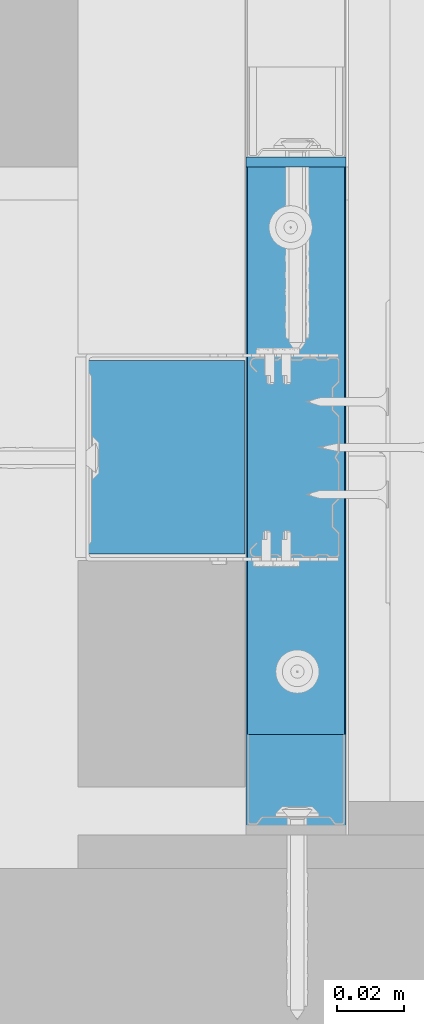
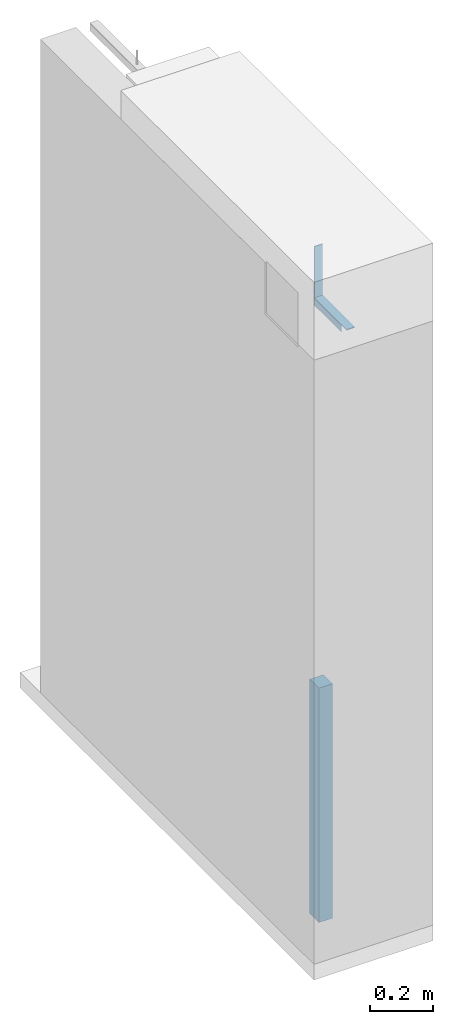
# One storey, part 6 of 62: 4 walls.
"""IFC2X3 building model written with IfcOpenShell, lengths in millimetres."""

from ifc_helpers import new_model, si_unit, frame, origin_with_axes, place, context, subcontext, project, spatial, faceted_brep, material, type_object, element, save


model = new_model("IFC2X3")

# Units and contexts
model_context = context("Model", 3, world=origin_with_axes())
body_context = subcontext(model_context, "Body", "Model", "MODEL_VIEW")
ifc_project = project(units=[si_unit("LENGTHUNIT", "METRE", prefix="MILLI"), si_unit("AREAUNIT", "SQUARE_METRE"), si_unit("VOLUMEUNIT", "CUBIC_METRE")], contexts=[model_context])

# Site, building, storey
site_placement = place(None, frame((2152.14102611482, -2015.0250894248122, 57.61556563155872), z_axis=(0.0, 0.0, 1.0), x_axis=(-1.1102230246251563e-16, 1.0, 0.0)))
site = spatial("IfcSite", under=ifc_project, at=site_placement, Name="Default Site", CompositionType="ELEMENT")
building_placement = place(site_placement, origin_with_axes())
building = spatial("IfcBuilding", under=site, at=building_placement, Name="Default Building", CompositionType="ELEMENT")
storey_placement = place(building_placement, origin_with_axes())
storey = spatial("IfcBuildingStorey", under=building, at=storey_placement, Name="Default Building Storey", CompositionType="ELEMENT", Elevation=57.61556563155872)

# Walls
ifc_material_1 = material(Name="Default")
wall_type_1 = type_object("IfcWallType", Name="Wypełnienie z wełny mineralnej szklanej ISOVER#17", PredefinedType="NOTDEFINED")
wall_1_placement = place(storey_placement, frame((2041.0623067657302, 5350.424146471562, -7.900000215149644), z_axis=(0.0, 0.0, 1.0), x_axis=(-1.0, 4.718447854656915e-16, 0.0)))
element("IfcWall", 1, at=wall_1_placement, inside=storey, type_object=wall_type_1, material=ifc_material_1, Name="Wypełnienie z wełny mineralnej szklanej ISOVER", context=body_context, shape_type="Brep", body=[
    faceted_brep([(-168.124780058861, 3328.2832634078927, 7.899999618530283), (-168.124780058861, 3328.2832634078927, 911.5436077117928), (-225.97478152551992, 3328.2832634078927, 911.5436077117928), (-225.97478152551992, 3328.2832634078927, 7.899999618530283), (-168.124780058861, 3378.283168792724, 7.899999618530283), (-168.124780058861, 3378.283168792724, 911.5436077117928), (-225.97478152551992, 3378.283168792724, 911.5436077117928), (-225.97478152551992, 3378.283168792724, 7.899999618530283)], [[[0, 1, 2, 3]], [[0, 4, 5, 1]], [[6, 5, 4, 7]], [[7, 4, 0, 3]]]),
    faceted_brep([(-225.97478152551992, 3328.2832634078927, 911.5436077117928), (-225.97478152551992, 3378.283168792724, 911.5436077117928), (-225.97478152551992, 3378.283168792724, 7.899999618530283), (-225.97478152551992, 3328.2832634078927, 7.899999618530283), (-168.124780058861, 3328.2832634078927, 911.5436077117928), (-168.124780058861, 3378.283168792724, 911.5436077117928)], [[[0, 1, 2, 3]], [[1, 0, 4, 5]]]),
])
ifc_material_2 = material(Name="Undefined9")
wall_type_2 = type_object("IfcWallType", Name="Profil RIGIPS UD 30 GypSerra®/Ultrastil®#2", PredefinedType="NOTDEFINED")
wall_2_placement = place(storey_placement, frame((5051.214640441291, 472.86011781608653, 2431.3590203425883), z_axis=(6.092619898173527e-14, 6.866451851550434e-13, -1.0), x_axis=(-1.0, -2.0134422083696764e-15, -6.092619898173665e-14)))
element("IfcWall", 2, at=wall_2_placement, inside=storey, type_object=wall_type_2, material=ifc_material_2, Name="Profil RIGIPS UD 30 GypSerra®/Ultrastil®", context=body_context, shape_type="Brep", body=[
    faceted_brep([(2896.1895567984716, 1469.9159860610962, 140.9749984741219), (2896.1895567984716, 1469.3660736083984, 140.97499847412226), (2896.1895567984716, 1469.3660736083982, 114.77500200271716), (2896.189556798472, 1469.3758487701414, 114.64985460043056), (2896.189556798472, 1469.405174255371, 114.5277842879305), (2896.189556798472, 1469.45321559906, 114.41180855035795), (2896.1895567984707, 1469.518780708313, 114.30477350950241), (2896.1895567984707, 1469.600319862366, 114.20931667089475), (2896.1895567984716, 1469.6958065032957, 114.1277849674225), (2896.1895567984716, 1469.8028564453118, 114.06219750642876), (2896.1895567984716, 1469.9188470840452, 114.01415616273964), (2896.1895567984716, 1470.0409173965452, 113.98485302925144), (2896.1895567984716, 1470.1660871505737, 113.97500336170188), (2896.1895567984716, 1472.0159769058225, 113.97500336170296), (2896.1895567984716, 1472.1635580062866, 113.98871988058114), (2896.1895567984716, 1472.3060131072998, 114.02940750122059), (2896.1895567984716, 1472.43857383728, 114.09565806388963), (2896.1895567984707, 1472.556591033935, 114.18521404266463), (2896.1895567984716, 1472.6560115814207, 114.29499834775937), (2896.189556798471, 1473.6760854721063, 115.65499752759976), (2896.189556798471, 1473.7755060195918, 115.76478183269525), (2896.189556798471, 1473.8935232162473, 115.85433781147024), (2896.1895567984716, 1474.0260839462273, 115.92059582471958), (2896.1895567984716, 1474.1685390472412, 115.96128344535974), (2896.1895567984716, 1474.3160009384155, 115.9749999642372), (2896.1895567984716, 1493.615984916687, 115.97499996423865), (2896.1895567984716, 1493.7635660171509, 115.96128344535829), (2896.1895567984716, 1493.9060211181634, 115.92059582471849), (2896.1895567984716, 1494.0385818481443, 115.85433781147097), (2896.1895567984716, 1494.1565990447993, 115.76478183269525), (2896.1895567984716, 1494.2560195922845, 115.6549975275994), (2896.1895567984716, 1495.2759742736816, 114.29499834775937), (2896.1895567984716, 1495.3755140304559, 114.18521404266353), (2896.1895567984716, 1495.4935312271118, 114.09565806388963), (2896.1895567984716, 1495.6260919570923, 114.02940750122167), (2896.1895567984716, 1495.7685470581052, 113.98871988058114), (2896.1895567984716, 1495.9160089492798, 113.97500336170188), (2896.1895567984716, 1497.7660179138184, 113.97500336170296), (2896.1895567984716, 1497.8911876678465, 113.98485302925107), (2896.1895567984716, 1498.0132579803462, 114.01415616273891), (2896.1895567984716, 1498.129248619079, 114.06219750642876), (2896.1895567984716, 1498.236298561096, 114.12778496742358), (2896.1895567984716, 1498.3316659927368, 114.20931667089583), (2896.1895567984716, 1498.4132051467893, 114.30477350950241), (2896.1895567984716, 1498.4788894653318, 114.41180855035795), (2896.1895567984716, 1498.5269308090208, 114.52778428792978), (2896.1895567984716, 1498.556137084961, 114.64985460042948), (2896.189556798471, 1498.5660314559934, 114.77500200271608), (2896.1895567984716, 1498.5660314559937, 140.97499847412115), (2896.1895567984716, 1498.0159997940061, 140.97499847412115), (2896.189556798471, 1498.0159997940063, 114.77500200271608), (2896.1895567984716, 1498.012900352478, 114.73589390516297), (2896.1895567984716, 1498.003840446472, 114.6977469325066), (2896.1895567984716, 1497.9888200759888, 114.66149985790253), (2896.1895567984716, 1497.968316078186, 114.62805420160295), (2896.1895567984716, 1497.9428052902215, 114.59822207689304), (2896.1895567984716, 1497.9130029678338, 114.572748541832), (2896.1895567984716, 1497.8795051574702, 114.55225199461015), (2896.1895567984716, 1497.8432655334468, 114.53723907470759), (2896.1895567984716, 1497.8051185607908, 114.5280748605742), (2896.1895567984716, 1497.7660179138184, 114.5249977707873), (2896.1895567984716, 1495.9160089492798, 114.52499777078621), (2896.1895567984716, 1495.8698749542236, 114.5292893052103), (2896.1895567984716, 1495.8254098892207, 114.54199999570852), (2896.1895567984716, 1495.784044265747, 114.5627051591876), (2896.1895567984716, 1495.7470893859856, 114.59068953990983), (2896.1895567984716, 1495.7159757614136, 114.62499946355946), (2896.1895567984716, 1494.696021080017, 115.9849986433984), (2896.1895567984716, 1494.528174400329, 116.1702573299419), (2896.189556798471, 1494.3289756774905, 116.32138490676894), (2896.189556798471, 1494.1053390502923, 116.43319576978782), (2896.189556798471, 1493.8650131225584, 116.50185286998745), (2896.189556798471, 1493.6159849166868, 116.52500182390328), (2896.1895567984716, 1474.3160009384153, 116.52500182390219), (2896.1895567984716, 1474.0670919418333, 116.50185286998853), (2896.1895567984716, 1473.826646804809, 116.43319576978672), (2896.1895567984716, 1473.603129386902, 116.32138490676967), (2896.1895567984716, 1473.403930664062, 116.17025732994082), (2896.1895567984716, 1473.236083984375, 115.9849986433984), (2896.189556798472, 1472.216010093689, 114.62499946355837), (2896.189556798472, 1472.1848964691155, 114.59068953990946), (2896.189556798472, 1472.1480607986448, 114.5627051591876), (2896.189556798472, 1472.1066951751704, 114.54199999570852), (2896.189556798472, 1472.0621109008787, 114.52928930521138), (2896.189556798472, 1472.0159769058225, 114.5249977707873), (2896.189556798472, 1470.1660871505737, 114.52499777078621), (2896.189556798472, 1470.1268672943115, 114.52807486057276), (2896.189556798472, 1470.0887203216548, 114.53723907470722), (2896.189556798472, 1470.0524806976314, 114.55225199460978), (2896.189556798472, 1470.0191020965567, 114.572748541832), (2896.189556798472, 1469.989299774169, 114.59822207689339), (2896.189556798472, 1469.963788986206, 114.62805420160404), (2896.189556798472, 1469.9432849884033, 114.66149985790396), (2896.189556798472, 1469.9282646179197, 114.69774693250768), (2896.189556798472, 1469.9190855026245, 114.73589390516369), (2896.1895567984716, 1469.915986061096, 114.77500200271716), (2723.273281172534, 1469.3660736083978, 114.77500200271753), (2723.273281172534, 1469.3660736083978, 140.9749984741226), (2723.273281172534, 1469.9159860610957, 140.9749984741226), (2723.273281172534, 1469.9159860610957, 114.77500200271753), (2723.273281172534, 1469.9190855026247, 114.7358939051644), (2723.273281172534, 1469.9282646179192, 114.69774693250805), (2723.273281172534, 1469.9432849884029, 114.66149985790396), (2723.273281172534, 1469.9637889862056, 114.6280542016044), (2723.273281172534, 1469.9892997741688, 114.59822207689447), (2723.273281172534, 1470.0191020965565, 114.57274854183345), (2723.273281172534, 1470.052480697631, 114.55225199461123), (2723.273281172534, 1470.0887203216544, 114.53723907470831), (2723.273281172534, 1470.126867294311, 114.5280748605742), (2723.273281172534, 1470.166087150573, 114.5249977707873), (2723.273281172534, 1472.015976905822, 114.52499777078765), (2723.273281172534, 1472.0621109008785, 114.52928930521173), (2723.273281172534, 1472.1066951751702, 114.54199999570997), (2723.273281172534, 1472.1480607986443, 114.56270515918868), (2723.273281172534, 1472.184896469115, 114.59068953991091), (2723.273281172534, 1472.2160100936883, 114.62499946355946), (2723.2732811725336, 1473.2360839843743, 115.98499864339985), (2723.2732811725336, 1473.4039306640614, 116.17025732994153), (2723.273281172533, 1473.6031293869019, 116.32138490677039), (2723.273281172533, 1473.8266468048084, 116.43319576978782), (2723.273281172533, 1474.067091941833, 116.50185286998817), (2723.273281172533, 1474.3160009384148, 116.52500182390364), (2723.2732811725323, 1493.6159849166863, 116.52500182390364), (2723.2732811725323, 1493.865013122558, 116.50185286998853), (2723.2732811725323, 1494.105339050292, 116.43319576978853), (2723.2732811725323, 1494.3289756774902, 116.32138490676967), (2723.2732811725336, 1494.5281744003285, 116.17025732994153), (2723.273281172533, 1494.6960210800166, 115.98499864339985), (2723.2732811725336, 1495.7159757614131, 114.62499946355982), (2723.2732811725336, 1495.7470893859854, 114.59068953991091), (2723.2732811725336, 1495.7840442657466, 114.56270515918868), (2723.2732811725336, 1495.8254098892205, 114.54199999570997), (2723.2732811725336, 1495.869874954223, 114.52928930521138), (2723.2732811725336, 1495.9160089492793, 114.5249977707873), (2723.2732811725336, 1497.766017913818, 114.52499777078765), (2723.2732811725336, 1497.8051185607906, 114.5280748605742), (2723.2732811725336, 1497.8432655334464, 114.53723907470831), (2723.2732811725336, 1497.8795051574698, 114.55225199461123), (2723.2732811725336, 1497.9130029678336, 114.57274854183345), (2723.2732811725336, 1497.942805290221, 114.59822207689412), (2723.2732811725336, 1497.9683160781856, 114.6280542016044), (2723.2732811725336, 1497.988820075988, 114.66149985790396), (2723.2732811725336, 1498.0038404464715, 114.69774693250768), (2723.2732811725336, 1498.012900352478, 114.73589390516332), (2723.2732811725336, 1498.0159997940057, 114.7750020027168), (2723.273281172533, 1498.0159997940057, 140.9749984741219), (2723.273281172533, 1498.5660314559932, 140.97499847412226), (2723.2732811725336, 1498.5660314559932, 114.77500200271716), (2723.2732811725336, 1498.5561370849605, 114.64985460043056), (2723.2732811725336, 1498.5269308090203, 114.52778428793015), (2723.2732811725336, 1498.4788894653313, 114.41180855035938), (2723.2732811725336, 1498.4132051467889, 114.30477350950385), (2723.2732811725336, 1498.331665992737, 114.20931667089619), (2723.2732811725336, 1498.2362985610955, 114.12778496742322), (2723.2732811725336, 1498.1292486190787, 114.06219750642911), (2723.273281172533, 1498.013257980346, 114.01415616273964), (2723.273281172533, 1497.891187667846, 113.98485302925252), (2723.273281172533, 1497.766017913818, 113.97500336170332), (2723.273281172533, 1495.9160089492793, 113.97500336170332), (2723.273281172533, 1495.7685470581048, 113.98871988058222), (2723.273281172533, 1495.626091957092, 114.02940750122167), (2723.2732811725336, 1495.4935312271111, 114.09565806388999), (2723.2732811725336, 1495.3755140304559, 114.18521404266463), (2723.2732811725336, 1495.2759742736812, 114.29499834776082), (2723.273281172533, 1494.2560195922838, 115.65499752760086), (2723.273281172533, 1494.1565990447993, 115.76478183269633), (2723.273281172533, 1494.038581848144, 115.85433781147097), (2723.273281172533, 1493.906021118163, 115.92059582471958), (2723.273281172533, 1493.7635660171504, 115.96128344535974), (2723.273281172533, 1493.6159849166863, 115.97499996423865), (2723.2732811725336, 1474.3160009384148, 115.97499996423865), (2723.2732811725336, 1474.1685390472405, 115.96128344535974), (2723.2732811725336, 1474.0260839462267, 115.92059582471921), (2723.2732811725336, 1473.8935232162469, 115.85433781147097), (2723.2732811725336, 1473.7755060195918, 115.76478183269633), (2723.2732811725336, 1473.6760854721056, 115.65499752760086), (2723.273281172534, 1472.6560115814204, 114.29499834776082), (2723.273281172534, 1472.5565910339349, 114.18521404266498), (2723.2732811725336, 1472.4385738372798, 114.09565806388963), (2723.2732811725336, 1472.3060131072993, 114.02940750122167), (2723.273281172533, 1472.163558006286, 113.98871988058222), (2723.273281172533, 1472.015976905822, 113.97500336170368), (2723.273281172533, 1470.166087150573, 113.97500336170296), (2723.273281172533, 1470.0409173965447, 113.98485302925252), (2723.273281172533, 1469.9188470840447, 114.01415616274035), (2723.2732811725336, 1469.8028564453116, 114.06219750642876), (2723.2732811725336, 1469.6958065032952, 114.12778496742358), (2723.273281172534, 1469.6003198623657, 114.20931667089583), (2723.273281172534, 1469.5187807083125, 114.30477350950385), (2723.273281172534, 1469.4532155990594, 114.41180855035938), (2723.273281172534, 1469.4051742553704, 114.52778428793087), (2723.273281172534, 1469.375848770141, 114.64985460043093)], [[[0, 1, 2, 3, 4, 5, 6, 7, 8, 9, 10, 11, 12, 13, 14, 15, 16, 17, 18, 19, 20, 21, 22, 23, 24, 25, 26, 27, 28, 29, 30, 31, 32, 33, 34, 35, 36, 37, 38, 39, 40, 41, 42, 43, 44, 45, 46, 47, 48, 49, 50, 51, 52, 53, 54, 55, 56, 57, 58, 59, 60, 61, 62, 63, 64, 65, 66, 67, 68, 69, 70, 71, 72, 73, 74, 75, 76, 77, 78, 79, 80, 81, 82, 83, 84, 85, 86, 87, 88, 89, 90, 91, 92, 93, 94, 95]], [[96, 97, 98, 99, 100, 101, 102, 103, 104, 105, 106, 107, 108, 109, 110, 111, 112, 113, 114, 115, 116, 117, 118, 119, 120, 121, 122, 123, 124, 125, 126, 127, 128, 129, 130, 131, 132, 133, 134, 135, 136, 137, 138, 139, 140, 141, 142, 143, 144, 145, 146, 147, 148, 149, 150, 151, 152, 153, 154, 155, 156, 157, 158, 159, 160, 161, 162, 163, 164, 165, 166, 167, 168, 169, 170, 171, 172, 173, 174, 175, 176, 177, 178, 179, 180, 181, 182, 183, 184, 185, 186, 187, 188, 189, 190, 191]], [[23, 171, 170, 24]], [[22, 172, 171, 23]], [[175, 174, 20, 19]], [[172, 22, 21, 173]], [[20, 174, 173, 21]], [[24, 170, 169, 25]], [[29, 165, 164, 30]], [[165, 29, 28, 166]], [[27, 167, 166, 28]], [[169, 168, 26, 25]], [[26, 168, 167, 27]], [[30, 164, 163, 31]], [[35, 159, 158, 36]], [[34, 160, 159, 35]], [[33, 32, 162, 161]], [[161, 160, 34, 33]], [[163, 162, 32, 31]], [[36, 158, 157, 37]], [[46, 45, 149, 148]], [[148, 147, 47, 46]], [[44, 150, 149, 45]], [[43, 42, 152, 151]], [[151, 150, 44, 43]], [[41, 40, 154, 153]], [[153, 152, 42, 41]], [[39, 155, 154, 40]], [[38, 37, 157, 156]], [[156, 155, 39, 38]], [[47, 147, 146, 48]], [[48, 146, 145, 49]], [[49, 145, 144, 50]], [[134, 60, 59, 135]], [[58, 136, 135, 59]], [[57, 137, 136, 58]], [[137, 57, 56, 138]], [[55, 139, 138, 56]], [[139, 55, 54, 140]], [[53, 141, 140, 54]], [[52, 142, 141, 53]], [[142, 52, 51, 143]], [[50, 144, 143, 51]], [[60, 134, 133, 61]], [[65, 129, 128, 66]], [[129, 65, 64, 130]], [[63, 131, 130, 64]], [[133, 132, 62, 61]], [[62, 132, 131, 63]], [[66, 128, 127, 67]], [[71, 123, 122, 72]], [[70, 69, 125, 124]], [[124, 123, 71, 70]], [[68, 126, 125, 69]], [[127, 126, 68, 67]], [[72, 122, 121, 73]], [[77, 117, 116, 78]], [[76, 118, 117, 77]], [[75, 74, 120, 119]], [[119, 118, 76, 75]], [[121, 120, 74, 73]], [[78, 116, 115, 79]], [[83, 111, 110, 84]], [[82, 112, 111, 83]], [[115, 114, 80, 79]], [[112, 82, 81, 113]], [[80, 114, 113, 81]], [[84, 110, 109, 85]], [[99, 95, 94, 100]], [[93, 101, 100, 94]], [[92, 102, 101, 93]], [[102, 92, 91, 103]], [[90, 104, 103, 91]], [[104, 90, 89, 105]], [[88, 106, 105, 89]], [[87, 107, 106, 88]], [[107, 87, 86, 108]], [[85, 109, 108, 86]], [[95, 99, 98, 0]], [[0, 98, 97, 1]], [[1, 97, 96, 2]], [[11, 10, 184, 183]], [[183, 182, 12, 11]], [[9, 185, 184, 10]], [[6, 5, 189, 188]], [[7, 6, 188, 187]], [[8, 7, 187, 186]], [[186, 185, 9, 8]], [[4, 190, 189, 5]], [[3, 2, 96, 191]], [[191, 190, 4, 3]], [[12, 182, 181, 13]], [[17, 177, 176, 18]], [[16, 15, 179, 178]], [[178, 177, 17, 16]], [[14, 180, 179, 15]], [[181, 180, 14, 13]], [[18, 176, 175, 19]]]),
])
ifc_material_3 = material(Name="Undefined13")
wall_type_3 = type_object("IfcWallType", Name="Taśma uszczelniająca piankowa RIGIPS#4", PredefinedType="NOTDEFINED")
wall_3_placement = place(storey_placement, frame((5610.16507742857, 472.8602941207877, 2431.3694316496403), z_axis=(6.092619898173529e-14, 6.866451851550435e-13, -1.0), x_axis=(-1.0, -2.0134422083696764e-15, -6.092619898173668e-14)))
element("IfcWall", 3, at=wall_3_placement, inside=storey, type_object=wall_type_3, material=ifc_material_3, Name="Taśma uszczelniająca piankowa RIGIPS", context=body_context, shape_type="Brep", body=[
    faceted_brep([(3285.1244962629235, 1498.9659786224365, 113.97500336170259), (3285.1244962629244, 1498.9659786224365, 110.9749972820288), (3285.1244962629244, 1468.966007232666, 110.9749972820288), (3285.1244962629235, 1468.9660072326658, 113.97500336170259), (3487.5264937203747, 1498.9659786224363, 110.97499728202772), (3487.5264937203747, 1498.9659786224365, 113.97500336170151), (3487.5264937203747, 1468.966007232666, 113.97500336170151), (3487.5264937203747, 1468.9660072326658, 110.97499728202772)], [[[0, 1, 2, 3]], [[4, 5, 6, 7]], [[5, 0, 3, 6]], [[6, 3, 2, 7]], [[7, 2, 1, 4]], [[4, 1, 0, 5]]]),
])
wall_type_4 = type_object("IfcWallType", Name="Taśma uszczelniająca piankowa RIGIPS#5", PredefinedType="NOTDEFINED")
wall_4_placement = place(storey_placement, frame((2213.955944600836, 472.8602941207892, 5802.553796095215), z_axis=(1.0, 6.860037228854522e-13, 6.156186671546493e-14), x_axis=(6.156186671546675e-14, -2.6462982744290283e-15, -1.0)))
element("IfcWall", 4, at=wall_4_placement, inside=storey, type_object=wall_type_4, material=ifc_material_3, Name="Taśma uszczelniająca piankowa RIGIPS", context=body_context, shape_type="Brep", body=[
    faceted_brep([(3285.124496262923, 1498.9659786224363, 113.97500336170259), (3285.1244962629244, 1498.9659786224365, 110.9749972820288), (3285.1244962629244, 1468.966007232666, 110.9749972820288), (3285.124496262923, 1468.9660072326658, 113.97500336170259), (3485.159367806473, 1498.9659786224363, 110.9749972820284), (3485.1593678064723, 1498.9659786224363, 113.97500336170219), (3485.1593678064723, 1468.9660072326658, 113.97500336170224), (3485.159367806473, 1468.9660072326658, 110.97499728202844)], [[[0, 1, 2, 3]], [[4, 5, 6, 7]], [[5, 0, 3, 6]], [[6, 3, 2, 7]], [[7, 2, 1, 4]], [[4, 1, 0, 5]]]),
])

save(model, "model.ifc")
